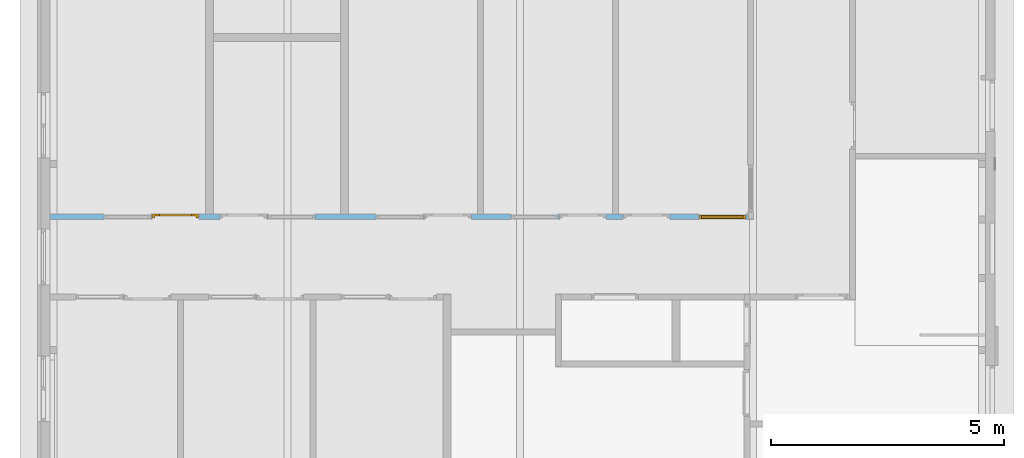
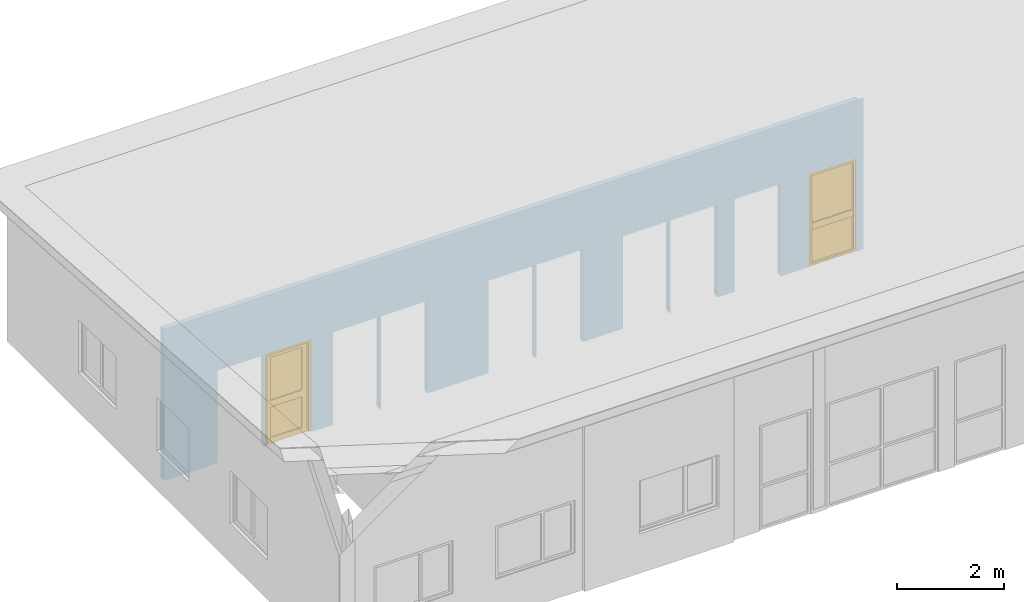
# One storey, part 18 of 37: 1 door, 1 window, 10 openings, plus 1 element that does not belong to this part.
"""IFC2X3 building model written with IfcOpenShell, lengths in millimetres."""

from ifc_helpers import new_model, entity, si_unit, converted_unit, frame, frame_2d, origin, origin_with_axes, place, context, subcontext, project, spatial, polyline, rectangle, outline, extrude, clip, halfspace, faceted_brep, material, layer, layer_set, layer_usage, type_object, element, fill, save


model = new_model("IFC2X3")

# Units and contexts
model_context = context("Model", 3, precision=1e-05, world=origin())
plan_context = context("Plan", 3, precision=1e-05, world=origin())
body_context = subcontext(model_context, "Body", "Model", "MODEL_VIEW")
ifc_project = project(units=[si_unit("LENGTHUNIT", "METRE", prefix="MILLI"), converted_unit("PLANEANGLEUNIT", "DEGREE", entity("IfcPlaneAngleMeasure", 0.0174532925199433), si_unit("PLANEANGLEUNIT", "RADIAN"), dimensions=[0, 0, 0, 0, 0, 0, 0]), si_unit("AREAUNIT", "SQUARE_METRE"), si_unit("VOLUMEUNIT", "CUBIC_METRE")], contexts=[model_context, plan_context])

# Building, storey
building_placement = place(None, origin())
building = spatial("IfcBuilding", under=ifc_project, at=building_placement, Name="HEKF Administrasjonbygg", CompositionType="ELEMENT")
storey_placement = place(building_placement, frame((0.0, 0.0, 9900.0), z_axis=(0.0, 0.0, 1.0), x_axis=(1.0, 0.0, 0.0)))
storey = spatial("IfcBuildingStorey", under=building, at=storey_placement, Name="Plan 2", CompositionType="ELEMENT", Elevation=9900.0)

# Wall, openings, window, door
ifc_material_1 = material(Name="gips")
ifc_layer_1 = layer(ifc_material_1, 13.0)
ifc_material_2 = material(Name="riegel stål 100")
ifc_layer_2 = layer(ifc_material_2, 100.0)
ifc_material_3 = material(Name="gips")
ifc_layer_3 = layer(ifc_material_3, 13.0)
ifc_layer_set = layer_set([ifc_layer_1, ifc_layer_2, ifc_layer_3])
ifc_layer_usage = layer_usage(ifc_layer_set, "AXIS2", "POSITIVE", 0.0)
wall_placement = place(storey_placement, frame((24887.0, -5075.0, 0.0), z_axis=(0.0, 0.0, 1.0), x_axis=(-1.0, 0.0, 0.0)))
wall = element("IfcWallStandardCase", 1, at=wall_placement, inside=storey, material=ifc_layer_usage, context=body_context, shape_type="Clipping", body=[
    clip(extrude(outline(polyline([(-113.0, 126.0), (-113.0, 113.0), (-13.0, 113.0), (-13.0, 13.0), (0.0, 13.0), (0.0, 0.0), (2774.0, 0.0), (2774.0, 13.0), (2787.0, 13.0), (2787.0, 0.0), (14987.00000000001, 0.0), (14987.00000000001, 126.0), (-113.0, 126.0)])), origin_with_axes(), (0.0, 0.0, 1.0), 3446.733333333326), halfspace(frame((2787.0, 0.0, 3438.333333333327), z_axis=(-9.402241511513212e-18, 0.06651901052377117, -0.9977851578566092), x_axis=(1.0, 0.0, 0.0)), True)),
])
opening_1_placement = place(wall_placement, frame((9293.284477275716, 0.0, 0.0), z_axis=(0.0, 1.0, 0.0), x_axis=(0.0, 0.0, 1.0)))
element("IfcOpeningElement", 2, at=opening_1_placement, cuts=wall, Name="Window opening", ObjectType="Opening", context=body_context, shape_type="SweptSolid", body=[
    extrude(rectangle(XDim=2110.0, YDim=1010.0, at=frame_2d((1055.0, 505.0), x_axis=(1.0, 0.0))), origin_with_axes(), (0.0, 0.0, 1.0), 126.0),
])
opening_2_placement = place(wall_placement, frame((6972.0, 0.0, 0.0), z_axis=(0.0, 1.0, 0.0), x_axis=(0.0, 0.0, 1.0)))
element("IfcOpeningElement", 3, at=opening_2_placement, cuts=wall, Name="Window opening", ObjectType="Opening", context=body_context, shape_type="SweptSolid", body=[
    extrude(rectangle(XDim=2110.0, YDim=1010.0, at=frame_2d((1055.0, 505.0), x_axis=(1.0, 0.0))), origin_with_axes(), (0.0, 0.0, 1.0), 126.0),
])
opening_3_placement = place(wall_placement, frame((12823.28447727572, 0.0, 0.0), z_axis=(0.0, 1.0, 0.0), x_axis=(0.0, 0.0, 1.0)))
element("IfcOpeningElement", 4, at=opening_3_placement, cuts=wall, Name="Window opening", ObjectType="Opening", context=body_context, shape_type="SweptSolid", body=[
    extrude(rectangle(XDim=2110.0, YDim=1010.0, at=frame_2d((1055.0, 505.0), x_axis=(1.0, 0.0))), origin_with_axes(), (0.0, 0.0, 1.0), 126.0),
])
opening_4_placement = place(wall_placement, frame((4072.0, 0.0, 0.0), z_axis=(0.0, 1.0, 0.0), x_axis=(0.0, 0.0, 1.0)))
element("IfcOpeningElement", 5, at=opening_4_placement, cuts=wall, Name="Window opening", ObjectType="Opening", context=body_context, shape_type="SweptSolid", body=[
    extrude(rectangle(XDim=2110.0, YDim=1010.0, at=frame_2d((1055.0, 505.0), x_axis=(1.0, 0.0))), origin_with_axes(), (0.0, 0.0, 1.0), 126.0),
])
opening_5_placement = place(wall_placement, frame((37.0, 0.0, 0.0), z_axis=(0.0, 1.0, 0.0), x_axis=(0.0, 0.0, 1.0)))
opening_5 = element("IfcOpeningElement", 6, at=opening_5_placement, cuts=wall, Name="Window opening", ObjectType="Opening", context=body_context, shape_type="SweptSolid", body=[
    extrude(rectangle(XDim=2110.0, YDim=1010.0, at=frame_2d((1055.0, 505.0), x_axis=(1.0, 0.0))), origin_with_axes(), (0.0, 0.0, 1.0), 126.0),
])
opening_6_placement = place(wall_placement, frame((11788.28447727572, 0.0, 0.0), z_axis=(0.0, 1.0, 0.0), x_axis=(0.0, 0.0, 1.0)))
opening_6 = element("IfcOpeningElement", 7, at=opening_6_placement, cuts=wall, Name="garasjeport med glassfelter:45x6", ObjectType="Opening", context=body_context, shape_type="SweptSolid", body=[
    extrude(rectangle(XDim=2110.0, YDim=1010.0, at=frame_2d((1055.0, 505.0), x_axis=(1.0, 0.0))), origin_with_axes(), (0.0, 0.0, 1.0), 126.0),
])
opening_7_placement = place(wall_placement, frame((10328.28447727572, 0.0, 0.0), z_axis=(0.0, 1.0, 0.0), x_axis=(0.0, 0.0, 1.0)))
element("IfcOpeningElement", 8, at=opening_7_placement, cuts=wall, Name="garasjeport med glassfelter:45x6", ObjectType="Opening", context=body_context, shape_type="SweptSolid", body=[
    extrude(rectangle(XDim=2110.0, YDim=1010.0, at=frame_2d((1055.0, 505.0), x_axis=(1.0, 0.0))), origin_with_axes(), (0.0, 0.0, 1.0), 126.0),
])
opening_8_placement = place(wall_placement, frame((5937.0, 0.0, 0.0), z_axis=(0.0, 1.0, 0.0), x_axis=(0.0, 0.0, 1.0)))
element("IfcOpeningElement", 9, at=opening_8_placement, cuts=wall, Name="garasjeport med glassfelter:45x6", ObjectType="Opening", context=body_context, shape_type="SweptSolid", body=[
    extrude(rectangle(XDim=2110.0, YDim=1010.0, at=frame_2d((1055.0, 505.0), x_axis=(1.0, 0.0))), origin_with_axes(), (0.0, 0.0, 1.0), 126.0),
])
opening_9_placement = place(wall_placement, frame((3037.0, 0.0, 0.0), z_axis=(0.0, 1.0, 0.0), x_axis=(0.0, 0.0, 1.0)))
element("IfcOpeningElement", 10, at=opening_9_placement, cuts=wall, Name="garasjeport med glassfelter:45x6", ObjectType="Opening", context=body_context, shape_type="SweptSolid", body=[
    extrude(rectangle(XDim=2110.0, YDim=1010.0, at=frame_2d((1055.0, 505.0), x_axis=(1.0, 0.0))), origin_with_axes(), (0.0, 0.0, 1.0), 126.0),
])
opening_10_placement = place(wall_placement, frame((1664.0, 0.0, 0.0), z_axis=(0.0, 1.0, 0.0), x_axis=(0.0, 0.0, 1.0)))
element("IfcOpeningElement", 11, at=opening_10_placement, cuts=wall, Name="garasjeport med glassfelter:45x6", ObjectType="Opening", context=body_context, shape_type="SweptSolid", body=[
    extrude(rectangle(XDim=2110.0, YDim=1010.0, at=frame_2d((1055.0, 505.0), x_axis=(1.0, 0.0))), origin_with_axes(), (0.0, 0.0, 1.0), 126.0),
])
ifc_material_4 = material()
window_style = type_object("IfcWindowStyle", Name="IV102", ConstructionType="NOTDEFINED", OperationType="USERDEFINED", ParameterTakesPrecedence=False, Sizeable=False)
window_placement = place(opening_5_placement, frame((0.0, 0.0, 0.0), z_axis=(1.0, 0.0, 0.0), x_axis=(0.0, 1.0, 0.0)))
window = element("IfcWindow", 12, at=window_placement, inside=storey, type_object=window_style, material=ifc_material_4, Name="IV102", OverallHeight=2110.0, OverallWidth=1010.0, context=body_context, shape_type="Brep", body=[
    faceted_brep([(1000.0, 19.99999999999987, 2100.0), (1000.0, 20.0, -2.816687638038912e-15), (950.0, 20.0, -2.816687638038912e-15), (950.0, 19.99999999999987, 2100.0), (1000.0, 112.0, 2.816687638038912e-15), (1000.0, 111.9999999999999, 2100.0), (950.0, 111.9999999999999, 2100.0), (950.0, 112.0, 2.816687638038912e-15), (1000.0, 20.0, -2.816687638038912e-15), (1000.0, 19.99999999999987, 2100.0), (1000.0, 111.9999999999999, 2100.0), (1000.0, 112.0, 2.816687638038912e-15), (950.0, 20.0, -2.816687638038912e-15), (1000.0, 20.0, -2.816687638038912e-15), (1000.0, 112.0, 2.816687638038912e-15), (950.0, 112.0, 2.816687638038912e-15), (950.0, 19.99999999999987, 2100.0), (950.0, 20.0, -2.816687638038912e-15), (950.0, 112.0, 2.816687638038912e-15), (950.0, 111.9999999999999, 2100.0), (1000.0, 19.99999999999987, 2100.0), (950.0, 19.99999999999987, 2100.0), (950.0, 111.9999999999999, 2100.0), (1000.0, 111.9999999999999, 2100.0)], [[[0, 1, 2, 3]], [[4, 5, 6, 7]], [[8, 9, 10, 11]], [[12, 13, 14, 15]], [[16, 17, 18, 19]], [[20, 21, 22, 23]]], orient=[[False], [False], [False], [False], [False], [False]]),
    faceted_brep([(60.0, 19.99999999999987, 2100.0), (60.0, 20.0, -2.816687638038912e-15), (10.0, 20.0, -2.816687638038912e-15), (10.0, 19.99999999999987, 2100.0), (60.0, 112.0, 2.816687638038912e-15), (60.0, 111.9999999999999, 2100.0), (10.0, 111.9999999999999, 2100.0), (10.0, 112.0, 2.816687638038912e-15), (60.0, 20.0, -2.816687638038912e-15), (60.0, 19.99999999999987, 2100.0), (60.0, 111.9999999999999, 2100.0), (60.0, 112.0, 2.816687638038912e-15), (10.0, 20.0, -2.816687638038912e-15), (60.0, 20.0, -2.816687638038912e-15), (60.0, 112.0, 2.816687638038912e-15), (10.0, 112.0, 2.816687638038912e-15), (10.0, 19.99999999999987, 2100.0), (10.0, 20.0, -2.816687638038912e-15), (10.0, 112.0, 2.816687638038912e-15), (10.0, 111.9999999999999, 2100.0), (60.0, 19.99999999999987, 2100.0), (10.0, 19.99999999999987, 2100.0), (10.0, 111.9999999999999, 2100.0), (60.0, 111.9999999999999, 2100.0)], [[[0, 1, 2, 3]], [[4, 5, 6, 7]], [[8, 9, 10, 11]], [[12, 13, 14, 15]], [[16, 17, 18, 19]], [[20, 21, 22, 23]]], orient=[[False], [False], [False], [False], [False], [False]]),
    faceted_brep([(950.0, 20.0, 50.0), (950.0, 20.0, -2.816687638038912e-15), (60.00000000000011, 20.0, -2.816687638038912e-15), (60.00000000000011, 20.0, 50.0), (950.0, 112.0, 2.816687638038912e-15), (950.0, 112.0, 50.00000000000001), (60.00000000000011, 112.0, 50.00000000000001), (60.00000000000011, 112.0, 2.816687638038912e-15), (950.0, 20.0, -2.816687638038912e-15), (950.0, 20.0, 50.0), (950.0, 112.0, 50.00000000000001), (950.0, 112.0, 2.816687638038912e-15), (60.00000000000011, 20.0, -2.816687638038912e-15), (950.0, 20.0, -2.816687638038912e-15), (950.0, 112.0, 2.816687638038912e-15), (60.00000000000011, 112.0, 2.816687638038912e-15), (60.00000000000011, 20.0, 50.0), (60.00000000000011, 20.0, -2.816687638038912e-15), (60.00000000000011, 112.0, 2.816687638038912e-15), (60.00000000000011, 112.0, 50.00000000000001), (950.0, 20.0, 50.0), (60.00000000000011, 20.0, 50.0), (60.00000000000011, 112.0, 50.00000000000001), (950.0, 112.0, 50.00000000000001)], [[[0, 1, 2, 3]], [[4, 5, 6, 7]], [[8, 9, 10, 11]], [[12, 13, 14, 15]], [[16, 17, 18, 19]], [[20, 21, 22, 23]]], orient=[[False], [False], [False], [False], [False], [False]]),
    faceted_brep([(950.0, 19.99999999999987, 2100.000000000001), (950.0, 19.99999999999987, 2050.000000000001), (60.00000000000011, 19.99999999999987, 2050.000000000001), (60.00000000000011, 19.99999999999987, 2100.000000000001), (950.0, 111.9999999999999, 2050.000000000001), (950.0, 111.9999999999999, 2100.000000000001), (60.00000000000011, 111.9999999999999, 2100.000000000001), (60.00000000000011, 111.9999999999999, 2050.000000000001), (950.0, 19.99999999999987, 2050.000000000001), (950.0, 19.99999999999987, 2100.000000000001), (950.0, 111.9999999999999, 2100.000000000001), (950.0, 111.9999999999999, 2050.000000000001), (60.00000000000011, 19.99999999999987, 2050.000000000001), (950.0, 19.99999999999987, 2050.000000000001), (950.0, 111.9999999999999, 2050.000000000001), (60.00000000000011, 111.9999999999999, 2050.000000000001), (60.00000000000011, 19.99999999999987, 2100.000000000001), (60.00000000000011, 19.99999999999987, 2050.000000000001), (60.00000000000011, 111.9999999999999, 2050.000000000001), (60.00000000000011, 111.9999999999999, 2100.000000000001), (950.0, 19.99999999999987, 2100.000000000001), (60.00000000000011, 19.99999999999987, 2100.000000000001), (60.00000000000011, 111.9999999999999, 2100.000000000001), (950.0, 111.9999999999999, 2100.000000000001)], [[[0, 1, 2, 3]], [[4, 5, 6, 7]], [[8, 9, 10, 11]], [[12, 13, 14, 15]], [[16, 17, 18, 19]], [[20, 21, 22, 23]]], orient=[[False], [False], [False], [False], [False], [False]]),
    faceted_brep([(950.0, 40.99999999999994, 950.0), (950.0, 40.99999999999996, 800.0), (60.00000000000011, 40.99999999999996, 800.0), (60.00000000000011, 40.99999999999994, 950.0), (950.0, 90.99999999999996, 800.0), (950.0, 90.99999999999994, 950.0), (60.00000000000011, 90.99999999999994, 950.0), (60.00000000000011, 90.99999999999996, 800.0), (950.0, 40.99999999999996, 800.0), (950.0, 40.99999999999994, 950.0), (950.0, 90.99999999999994, 950.0), (950.0, 90.99999999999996, 800.0), (60.00000000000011, 40.99999999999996, 800.0), (950.0, 40.99999999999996, 800.0), (950.0, 90.99999999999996, 800.0), (60.00000000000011, 90.99999999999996, 800.0), (60.00000000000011, 40.99999999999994, 950.0), (60.00000000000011, 40.99999999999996, 800.0), (60.00000000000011, 90.99999999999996, 800.0), (60.00000000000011, 90.99999999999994, 950.0), (950.0, 40.99999999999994, 950.0), (60.00000000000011, 40.99999999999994, 950.0), (60.00000000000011, 90.99999999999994, 950.0), (950.0, 90.99999999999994, 950.0)], [[[0, 1, 2, 3]], [[4, 5, 6, 7]], [[8, 9, 10, 11]], [[12, 13, 14, 15]], [[16, 17, 18, 19]], [[20, 21, 22, 23]]], orient=[[False], [False], [False], [False], [False], [False]]),
    faceted_brep([(950.0, 66.0, 50.0), (60.00000000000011, 66.0, 50.0), (60.00000000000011, 65.99999999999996, 800.0), (950.0, 65.99999999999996, 800.0), (950.0, 67.0, 50.0), (950.0, 66.99999999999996, 800.0), (60.00000000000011, 66.99999999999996, 800.0), (60.00000000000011, 67.0, 50.0), (950.0, 66.0, 50.0), (950.0, 67.0, 50.0), (60.00000000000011, 67.0, 50.0), (60.00000000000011, 66.0, 50.0), (60.00000000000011, 66.0, 50.0), (60.00000000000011, 67.0, 50.0), (60.00000000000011, 66.99999999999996, 800.0), (60.00000000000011, 65.99999999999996, 800.0), (60.00000000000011, 65.99999999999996, 800.0), (60.00000000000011, 66.99999999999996, 800.0), (950.0, 66.99999999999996, 800.0), (950.0, 65.99999999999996, 800.0), (950.0, 65.99999999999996, 800.0), (950.0, 66.99999999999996, 800.0), (950.0, 67.0, 50.0), (950.0, 66.0, 50.0)], [[[0, 1, 2, 3]], [[4, 5, 6, 7]], [[8, 9, 10, 11]], [[12, 13, 14, 15]], [[16, 17, 18, 19]], [[20, 21, 22, 23]]], orient=[[False], [False], [False], [False], [False], [False]]),
    faceted_brep([(950.0, 65.99999999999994, 950.0000000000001), (60.00000000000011, 65.99999999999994, 950.0000000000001), (60.00000000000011, 65.99999999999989, 2050.000000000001), (950.0, 65.99999999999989, 2050.000000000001), (950.0, 66.99999999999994, 950.0000000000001), (950.0, 66.99999999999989, 2050.000000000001), (60.00000000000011, 66.99999999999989, 2050.000000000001), (60.00000000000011, 66.99999999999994, 950.0000000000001), (950.0, 65.99999999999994, 950.0000000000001), (950.0, 66.99999999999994, 950.0000000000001), (60.00000000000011, 66.99999999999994, 950.0000000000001), (60.00000000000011, 65.99999999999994, 950.0000000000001), (60.00000000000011, 65.99999999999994, 950.0000000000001), (60.00000000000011, 66.99999999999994, 950.0000000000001), (60.00000000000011, 66.99999999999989, 2050.000000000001), (60.00000000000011, 65.99999999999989, 2050.000000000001), (60.00000000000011, 65.99999999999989, 2050.000000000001), (60.00000000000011, 66.99999999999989, 2050.000000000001), (950.0, 66.99999999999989, 2050.000000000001), (950.0, 65.99999999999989, 2050.000000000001), (950.0, 65.99999999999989, 2050.000000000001), (950.0, 66.99999999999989, 2050.000000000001), (950.0, 66.99999999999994, 950.0000000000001), (950.0, 65.99999999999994, 950.0000000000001)], [[[0, 1, 2, 3]], [[4, 5, 6, 7]], [[8, 9, 10, 11]], [[12, 13, 14, 15]], [[16, 17, 18, 19]], [[20, 21, 22, 23]]], orient=[[False], [False], [False], [False], [False], [False]]),
])
fill(opening_5, window)
ifc_material_5 = material()
door_style = type_object("IfcDoorStyle", Name="D111", ConstructionType="NOTDEFINED", OperationType="USERDEFINED", ParameterTakesPrecedence=False, Sizeable=False)
door_placement = place(opening_6_placement, frame((0.0, 0.0, 0.0), z_axis=(1.0, 0.0, 0.0), x_axis=(0.0, 1.0, 0.0)))
door = element("IfcDoor", 13, at=door_placement, inside=storey, type_object=door_style, material=ifc_material_5, Name="D111", OverallHeight=2110.0, OverallWidth=1010.0, context=body_context, shape_type="Brep", body=[
    faceted_brep([(9.999999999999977, 0.9999999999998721, 2090.0), (59.99999999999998, 0.9999999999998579, 2090.0), (59.99999999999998, 0.9999999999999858, -2.816687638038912e-15), (9.999999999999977, 1.0, -2.816687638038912e-15), (10.0, 93.0, 2.816687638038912e-15), (60.0, 92.99999999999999, 2.816687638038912e-15), (60.0, 92.99999999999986, 2090.0), (10.0, 92.99999999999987, 2090.0), (9.999999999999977, 1.0, -2.816687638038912e-15), (10.0, 93.0, 2.816687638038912e-15), (10.0, 92.99999999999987, 2090.0), (9.999999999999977, 0.9999999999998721, 2090.0), (59.99999999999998, 0.9999999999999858, -2.816687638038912e-15), (60.0, 92.99999999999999, 2.816687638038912e-15), (10.0, 93.0, 2.816687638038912e-15), (9.999999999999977, 1.0, -2.816687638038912e-15), (59.99999999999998, 0.9999999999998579, 2090.0), (60.0, 92.99999999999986, 2090.0), (60.0, 92.99999999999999, 2.816687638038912e-15), (59.99999999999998, 0.9999999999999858, -2.816687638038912e-15), (9.999999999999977, 0.9999999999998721, 2090.0), (10.0, 92.99999999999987, 2090.0), (60.0, 92.99999999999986, 2090.0), (59.99999999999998, 0.9999999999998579, 2090.0)], [[[0, 1, 2, 3]], [[4, 5, 6, 7]], [[8, 9, 10, 11]], [[12, 13, 14, 15]], [[16, 17, 18, 19]], [[20, 21, 22, 23]]], orient=[[False], [False], [False], [False], [False], [False]]),
    faceted_brep([(950.0, 0.9999999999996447, 2090.0), (1000.0, 0.9999999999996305, 2090.0), (1000.0, 0.9999999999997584, -2.816687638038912e-15), (950.0, 0.9999999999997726, -2.816687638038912e-15), (950.0, 92.99999999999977, 2.816687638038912e-15), (1000.0, 92.99999999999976, 2.816687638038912e-15), (1000.0, 92.99999999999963, 2090.0), (950.0, 92.99999999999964, 2090.0), (950.0, 0.9999999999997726, -2.816687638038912e-15), (950.0, 92.99999999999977, 2.816687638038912e-15), (950.0, 92.99999999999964, 2090.0), (950.0, 0.9999999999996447, 2090.0), (1000.0, 0.9999999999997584, -2.816687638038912e-15), (1000.0, 92.99999999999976, 2.816687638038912e-15), (950.0, 92.99999999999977, 2.816687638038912e-15), (950.0, 0.9999999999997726, -2.816687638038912e-15), (1000.0, 0.9999999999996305, 2090.0), (1000.0, 92.99999999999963, 2090.0), (1000.0, 92.99999999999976, 2.816687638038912e-15), (1000.0, 0.9999999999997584, -2.816687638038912e-15), (950.0, 0.9999999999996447, 2090.0), (950.0, 92.99999999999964, 2090.0), (1000.0, 92.99999999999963, 2090.0), (1000.0, 0.9999999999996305, 2090.0)], [[[0, 1, 2, 3]], [[4, 5, 6, 7]], [[8, 9, 10, 11]], [[12, 13, 14, 15]], [[16, 17, 18, 19]], [[20, 21, 22, 23]]], orient=[[False], [False], [False], [False], [False], [False]]),
    faceted_brep([(59.99999999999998, 0.9999999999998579, 2090.0), (949.9999999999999, 0.9999999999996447, 2090.0), (949.9999999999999, 0.9999999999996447, 2040.0), (59.99999999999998, 0.9999999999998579, 2040.0), (60.0, 92.99999999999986, 2040.0), (949.9999999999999, 92.99999999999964, 2040.0), (949.9999999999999, 92.99999999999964, 2090.0), (60.0, 92.99999999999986, 2090.0), (59.99999999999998, 0.9999999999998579, 2040.0), (60.0, 92.99999999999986, 2040.0), (60.0, 92.99999999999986, 2090.0), (59.99999999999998, 0.9999999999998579, 2090.0), (949.9999999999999, 0.9999999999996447, 2040.0), (949.9999999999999, 92.99999999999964, 2040.0), (60.0, 92.99999999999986, 2040.0), (59.99999999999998, 0.9999999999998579, 2040.0), (949.9999999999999, 0.9999999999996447, 2090.0), (949.9999999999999, 92.99999999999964, 2090.0), (949.9999999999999, 92.99999999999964, 2040.0), (949.9999999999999, 0.9999999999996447, 2040.0), (59.99999999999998, 0.9999999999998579, 2090.0), (60.0, 92.99999999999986, 2090.0), (949.9999999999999, 92.99999999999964, 2090.0), (949.9999999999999, 0.9999999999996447, 2090.0)], [[[0, 1, 2, 3]], [[4, 5, 6, 7]], [[8, 9, 10, 11]], [[12, 13, 14, 15]], [[16, 17, 18, 19]], [[20, 21, 22, 23]]], orient=[[False], [False], [False], [False], [False], [False]]),
    faceted_brep([(39.99999999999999, 0.9999999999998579, 2060.0), (165.0, 0.9999999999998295, 2060.0), (165.0, 0.9999999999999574, -20.0), (39.99999999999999, 0.9999999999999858, -20.0), (39.99999999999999, 40.99999999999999, -20.0), (165.0, 40.99999999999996, -20.0), (165.0, 40.99999999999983, 2060.0), (39.99999999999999, 40.99999999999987, 2060.0), (39.99999999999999, 0.9999999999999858, -20.0), (39.99999999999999, 40.99999999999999, -20.0), (39.99999999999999, 40.99999999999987, 2060.0), (39.99999999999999, 0.9999999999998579, 2060.0), (165.0, 0.9999999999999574, -20.0), (165.0, 40.99999999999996, -20.0), (39.99999999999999, 40.99999999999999, -20.0), (39.99999999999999, 0.9999999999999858, -20.0), (165.0, 0.9999999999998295, 2060.0), (165.0, 40.99999999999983, 2060.0), (165.0, 40.99999999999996, -20.0), (165.0, 0.9999999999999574, -20.0), (39.99999999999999, 0.9999999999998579, 2060.0), (39.99999999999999, 40.99999999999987, 2060.0), (165.0, 40.99999999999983, 2060.0), (165.0, 0.9999999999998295, 2060.0)], [[[0, 1, 2, 3]], [[4, 5, 6, 7]], [[8, 9, 10, 11]], [[12, 13, 14, 15]], [[16, 17, 18, 19]], [[20, 21, 22, 23]]], orient=[[False], [False], [False], [False], [False], [False]]),
    faceted_brep([(844.9999999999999, 0.9999999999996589, 2060.0), (969.9999999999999, 0.9999999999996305, 2060.0), (969.9999999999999, 0.9999999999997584, -20.0), (844.9999999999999, 0.9999999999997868, -20.0), (844.9999999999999, 40.99999999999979, -20.0), (969.9999999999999, 40.99999999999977, -20.0), (969.9999999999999, 40.99999999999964, 2060.0), (844.9999999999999, 40.99999999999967, 2060.0), (844.9999999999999, 0.9999999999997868, -20.0), (844.9999999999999, 40.99999999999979, -20.0), (844.9999999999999, 40.99999999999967, 2060.0), (844.9999999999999, 0.9999999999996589, 2060.0), (969.9999999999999, 0.9999999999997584, -20.0), (969.9999999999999, 40.99999999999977, -20.0), (844.9999999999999, 40.99999999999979, -20.0), (844.9999999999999, 0.9999999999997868, -20.0), (969.9999999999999, 0.9999999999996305, 2060.0), (969.9999999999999, 40.99999999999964, 2060.0), (969.9999999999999, 40.99999999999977, -20.0), (969.9999999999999, 0.9999999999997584, -20.0), (844.9999999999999, 0.9999999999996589, 2060.0), (844.9999999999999, 40.99999999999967, 2060.0), (969.9999999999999, 40.99999999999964, 2060.0), (969.9999999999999, 0.9999999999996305, 2060.0)], [[[0, 1, 2, 3]], [[4, 5, 6, 7]], [[8, 9, 10, 11]], [[12, 13, 14, 15]], [[16, 17, 18, 19]], [[20, 21, 22, 23]]], orient=[[False], [False], [False], [False], [False], [False]]),
    faceted_brep([(165.0, 0.9999999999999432, 105.0), (844.9999999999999, 0.9999999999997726, 105.0), (844.9999999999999, 0.9999999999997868, -20.0), (165.0, 0.9999999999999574, -20.0), (165.0, 40.99999999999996, -20.0), (844.9999999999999, 40.99999999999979, -20.0), (844.9999999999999, 40.99999999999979, 105.0), (165.0, 40.99999999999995, 105.0), (165.0, 0.9999999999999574, -20.0), (165.0, 40.99999999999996, -20.0), (165.0, 40.99999999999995, 105.0), (165.0, 0.9999999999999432, 105.0), (844.9999999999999, 0.9999999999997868, -20.0), (844.9999999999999, 40.99999999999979, -20.0), (165.0, 40.99999999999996, -20.0), (165.0, 0.9999999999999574, -20.0), (844.9999999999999, 0.9999999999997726, 105.0), (844.9999999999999, 40.99999999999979, 105.0), (844.9999999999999, 40.99999999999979, -20.0), (844.9999999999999, 0.9999999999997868, -20.0), (165.0, 0.9999999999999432, 105.0), (165.0, 40.99999999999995, 105.0), (844.9999999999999, 40.99999999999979, 105.0), (844.9999999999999, 0.9999999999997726, 105.0)], [[[0, 1, 2, 3]], [[4, 5, 6, 7]], [[8, 9, 10, 11]], [[12, 13, 14, 15]], [[16, 17, 18, 19]], [[20, 21, 22, 23]]], orient=[[False], [False], [False], [False], [False], [False]]),
    faceted_brep([(165.0, 0.9999999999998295, 2060.0), (844.9999999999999, 0.9999999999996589, 2060.0), (844.9999999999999, 0.9999999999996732, 1935.0), (165.0, 0.9999999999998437, 1935.0), (165.0, 40.99999999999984, 1935.0), (844.9999999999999, 40.99999999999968, 1935.0), (844.9999999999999, 40.99999999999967, 2060.0), (165.0, 40.99999999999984, 2060.0), (165.0, 0.9999999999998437, 1935.0), (165.0, 40.99999999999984, 1935.0), (165.0, 40.99999999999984, 2060.0), (165.0, 0.9999999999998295, 2060.0), (844.9999999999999, 0.9999999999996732, 1935.0), (844.9999999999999, 40.99999999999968, 1935.0), (165.0, 40.99999999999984, 1935.0), (165.0, 0.9999999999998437, 1935.0), (844.9999999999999, 0.9999999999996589, 2060.0), (844.9999999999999, 40.99999999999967, 2060.0), (844.9999999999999, 40.99999999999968, 1935.0), (844.9999999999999, 0.9999999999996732, 1935.0), (165.0, 0.9999999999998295, 2060.0), (165.0, 40.99999999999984, 2060.0), (844.9999999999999, 40.99999999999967, 2060.0), (844.9999999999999, 0.9999999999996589, 2060.0)], [[[0, 1, 2, 3]], [[4, 5, 6, 7]], [[8, 9, 10, 11]], [[12, 13, 14, 15]], [[16, 17, 18, 19]], [[20, 21, 22, 23]]], orient=[[False], [False], [False], [False], [False], [False]]),
    faceted_brep([(165.0, 0.9999999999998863, 955.0), (844.9999999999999, 0.9999999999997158, 955.0), (844.9999999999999, 0.99999999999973, 805.0), (165.0, 0.9999999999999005, 805.0), (165.0, 40.9999999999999, 805.0), (844.9999999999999, 40.99999999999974, 805.0), (844.9999999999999, 40.99999999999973, 955.0), (165.0, 40.99999999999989, 955.0), (165.0, 0.9999999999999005, 805.0), (165.0, 40.9999999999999, 805.0), (165.0, 40.99999999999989, 955.0), (165.0, 0.9999999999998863, 955.0), (844.9999999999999, 0.99999999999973, 805.0), (844.9999999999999, 40.99999999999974, 805.0), (165.0, 40.9999999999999, 805.0), (165.0, 0.9999999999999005, 805.0), (844.9999999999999, 0.9999999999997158, 955.0), (844.9999999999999, 40.99999999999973, 955.0), (844.9999999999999, 40.99999999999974, 805.0), (844.9999999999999, 0.99999999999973, 805.0), (165.0, 0.9999999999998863, 955.0), (165.0, 40.99999999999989, 955.0), (844.9999999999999, 40.99999999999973, 955.0), (844.9999999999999, 0.9999999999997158, 955.0)], [[[0, 1, 2, 3]], [[4, 5, 6, 7]], [[8, 9, 10, 11]], [[12, 13, 14, 15]], [[16, 17, 18, 19]], [[20, 21, 22, 23]]], orient=[[False], [False], [False], [False], [False], [False]]),
    faceted_brep([(165.0, 20.99999999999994, 105.0), (165.0, 20.9999999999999, 805.0), (844.9999999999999, 20.99999999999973, 805.0), (844.9999999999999, 20.99999999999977, 105.0), (165.0, 21.99999999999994, 105.0), (844.9999999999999, 21.99999999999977, 105.0), (844.9999999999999, 21.99999999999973, 805.0), (165.0, 21.9999999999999, 805.0), (165.0, 20.99999999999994, 105.0), (165.0, 21.99999999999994, 105.0), (165.0, 21.9999999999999, 805.0), (165.0, 20.9999999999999, 805.0), (165.0, 20.9999999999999, 805.0), (165.0, 21.9999999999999, 805.0), (844.9999999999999, 21.99999999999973, 805.0), (844.9999999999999, 20.99999999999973, 805.0), (844.9999999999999, 20.99999999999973, 805.0), (844.9999999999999, 21.99999999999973, 805.0), (844.9999999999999, 21.99999999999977, 105.0), (844.9999999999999, 20.99999999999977, 105.0), (844.9999999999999, 20.99999999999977, 105.0), (844.9999999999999, 21.99999999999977, 105.0), (165.0, 21.99999999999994, 105.0), (165.0, 20.99999999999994, 105.0)], [[[0, 1, 2, 3]], [[4, 5, 6, 7]], [[8, 9, 10, 11]], [[12, 13, 14, 15]], [[16, 17, 18, 19]], [[20, 21, 22, 23]]], orient=[[False], [False], [False], [False], [False], [False]]),
    faceted_brep([(165.0, 20.9999999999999, 955.0), (165.0, 20.99999999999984, 1935.0), (844.9999999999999, 20.99999999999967, 1935.0), (844.9999999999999, 20.99999999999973, 955.0), (165.0, 21.9999999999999, 955.0), (844.9999999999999, 21.99999999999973, 955.0), (844.9999999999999, 21.99999999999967, 1935.0), (165.0, 21.99999999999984, 1935.0), (165.0, 20.9999999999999, 955.0), (165.0, 21.9999999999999, 955.0), (165.0, 21.99999999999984, 1935.0), (165.0, 20.99999999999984, 1935.0), (165.0, 20.99999999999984, 1935.0), (165.0, 21.99999999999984, 1935.0), (844.9999999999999, 21.99999999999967, 1935.0), (844.9999999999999, 20.99999999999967, 1935.0), (844.9999999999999, 20.99999999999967, 1935.0), (844.9999999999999, 21.99999999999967, 1935.0), (844.9999999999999, 21.99999999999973, 955.0), (844.9999999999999, 20.99999999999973, 955.0), (844.9999999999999, 20.99999999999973, 955.0), (844.9999999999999, 21.99999999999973, 955.0), (165.0, 21.9999999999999, 955.0), (165.0, 20.9999999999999, 955.0)], [[[0, 1, 2, 3]], [[4, 5, 6, 7]], [[8, 9, 10, 11]], [[12, 13, 14, 15]], [[16, 17, 18, 19]], [[20, 21, 22, 23]]], orient=[[False], [False], [False], [False], [False], [False]]),
])
fill(opening_6, door)

save(model, "model.ifc")
